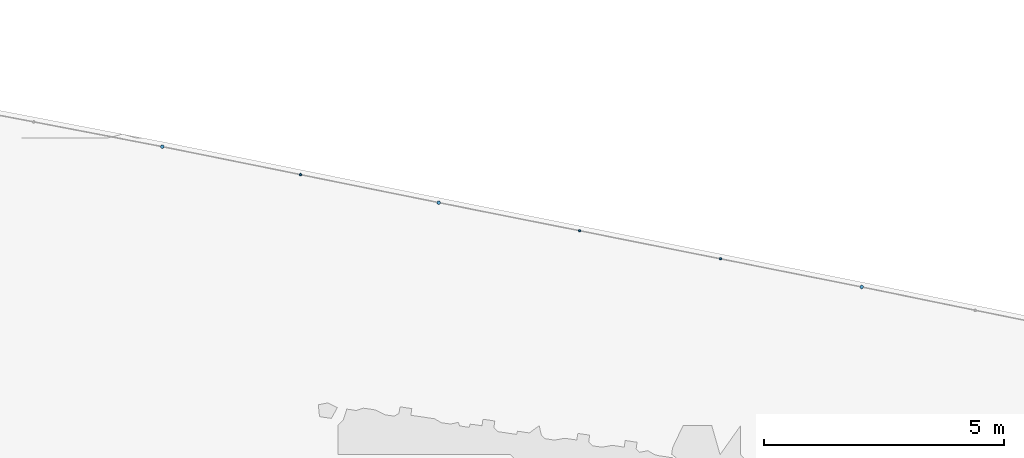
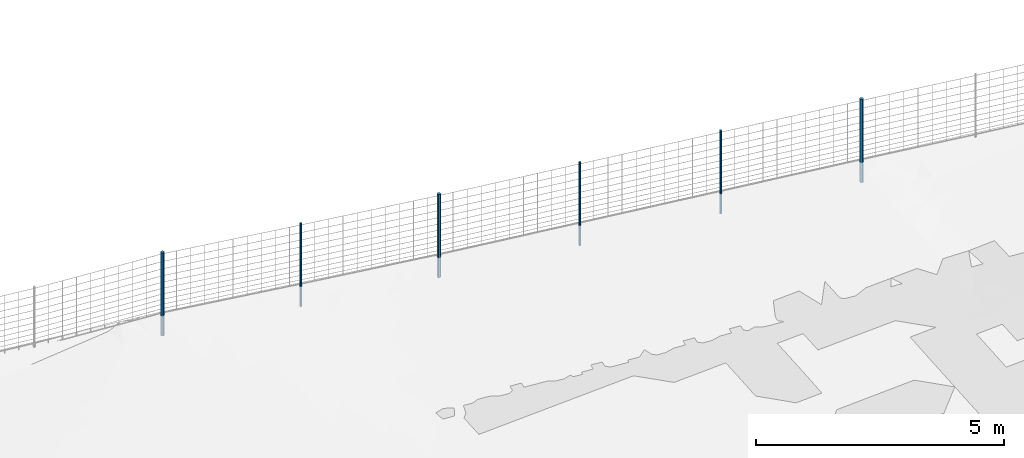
# Not in any storey, part 8 of 72: 6 members.
"""IFC4 model written with IfcOpenShell, lengths in metres."""

from ifc_helpers import new_model, si_unit, direction, frame, origin_with_axes, place, context, subcontext, project, spatial, circle, extrude, material, material_profile, profile_set, profile_usage, type_object, element, save


model = new_model("IFC4")

# Units and contexts
model_context = context("Model", 3, precision=1e-05, world=origin_with_axes(), true_north=direction((0.0, 1.0)))
body_context = subcontext(model_context, "Body", "Model", "MODEL_VIEW")
ifc_project = project(units=[si_unit("AREAUNIT", "SQUARE_METRE"), si_unit("VOLUMEUNIT", "CUBIC_METRE"), si_unit("LENGTHUNIT", "METRE")], contexts=[model_context])

# Site
site_placement = place(None, origin_with_axes())
site = spatial("IfcSite", under=ifc_project, at=site_placement, Name="Lares · Rua das Mercês · artigo 4771")

# Members
ifc_material = material(Name="Aço galvanizado / Stahl verzinkt", Category="steel")
ifc_material_profile_1 = material_profile(ifc_material, circle(Radius=0.038))
ifc_profile_set_1 = profile_set([ifc_material_profile_1], Name="D0.076")
ifc_profile_usage_1 = profile_usage(ifc_profile_set_1)
member_type_1 = type_object("IfcMemberType", Name="D0.076 / galvanized", PredefinedType="NOTDEFINED", material=ifc_profile_set_1)
member_1_placement = place(site_placement, frame((22.035427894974, 20.2609930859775, 13.7852126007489), z_axis=(0.0, 0.0, 1.0), x_axis=(1.0, -1.03767253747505e-17, 0.0)))
element("IfcMember", 1, at=member_1_placement, inside=site, type_object=member_type_1, material=ifc_profile_usage_1, Name="Vedação · poste de canto/topo", PredefinedType="POST", context=body_context, shape_type="SweptSolid", body=[
    extrude(circle(Radius=0.038), origin_with_axes(), (0.0, 0.0, 1.0), 2.05),
])
ifc_profile_usage_2 = profile_usage(ifc_profile_set_1)
member_2_placement = place(site_placement, frame((27.7959890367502, 19.0938617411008, 13.9093873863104), z_axis=(0.0, 0.0, 1.0), x_axis=(1.0, -1.03767253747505e-17, 0.0)))
element("IfcMember", 2, at=member_2_placement, inside=site, type_object=member_type_1, material=ifc_profile_usage_2, Name="Vedação · poste de canto/topo", PredefinedType="POST", context=body_context, shape_type="SweptSolid", body=[
    extrude(circle(Radius=0.038), origin_with_axes(), (0.0, 0.0, 1.0), 2.05),
])
ifc_profile_usage_3 = profile_usage(ifc_profile_set_1)
member_3_placement = place(site_placement, frame((36.6183881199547, 17.3337818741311, 14.2268175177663), z_axis=(0.0, 0.0, 1.0), x_axis=(1.0, -1.03767253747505e-17, 0.0)))
element("IfcMember", 3, at=member_3_placement, inside=site, type_object=member_type_1, material=ifc_profile_usage_3, Name="Vedação · poste de canto/topo", PredefinedType="POST", context=body_context, shape_type="SweptSolid", body=[
    extrude(circle(Radius=0.038), origin_with_axes(), (0.0, 0.0, 1.0), 2.05),
])
ifc_material_profile_2 = material_profile(ifc_material, circle(Radius=0.024))
ifc_profile_set_2 = profile_set([ifc_material_profile_2], Name="D0.048")
ifc_profile_usage_4 = profile_usage(ifc_profile_set_2)
member_type_2 = type_object("IfcMemberType", Name="D0.048 / galvanized", PredefinedType="NOTDEFINED", material=ifc_profile_set_2)
member_4_placement = place(site_placement, frame((24.9157084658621, 19.6774274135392, 13.8403187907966), z_axis=(0.0, 0.0, 1.0), x_axis=(1.0, -1.03767253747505e-17, 0.0)))
element("IfcMember", 4, at=member_4_placement, inside=site, type_object=member_type_2, material=ifc_profile_usage_4, Name="Vedação · poste intermédio", PredefinedType="POST", context=body_context, shape_type="SweptSolid", body=[
    extrude(circle(Radius=0.024), origin_with_axes(), (0.0, 0.0, 1.0), 2.05),
])
ifc_profile_usage_5 = profile_usage(ifc_profile_set_2)
member_5_placement = place(site_placement, frame((30.7367887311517, 18.5071684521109, 14.0153532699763), z_axis=(0.0, 0.0, 1.0), x_axis=(1.0, -1.03767253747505e-17, 0.0)))
element("IfcMember", 5, at=member_5_placement, inside=site, type_object=member_type_2, material=ifc_profile_usage_5, Name="Vedação · poste intermédio", PredefinedType="POST", context=body_context, shape_type="SweptSolid", body=[
    extrude(circle(Radius=0.024), origin_with_axes(), (0.0, 0.0, 1.0), 2.05),
])
ifc_profile_usage_6 = profile_usage(ifc_profile_set_2)
member_6_placement = place(site_placement, frame((33.6775884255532, 17.920475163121, 14.1210853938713), z_axis=(0.0, 0.0, 1.0), x_axis=(1.0, -1.03767253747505e-17, 0.0)))
element("IfcMember", 6, at=member_6_placement, inside=site, type_object=member_type_2, material=ifc_profile_usage_6, Name="Vedação · poste intermédio", PredefinedType="POST", context=body_context, shape_type="SweptSolid", body=[
    extrude(circle(Radius=0.024), origin_with_axes(), (0.0, 0.0, 1.0), 2.05),
])

save(model, "model.ifc")
